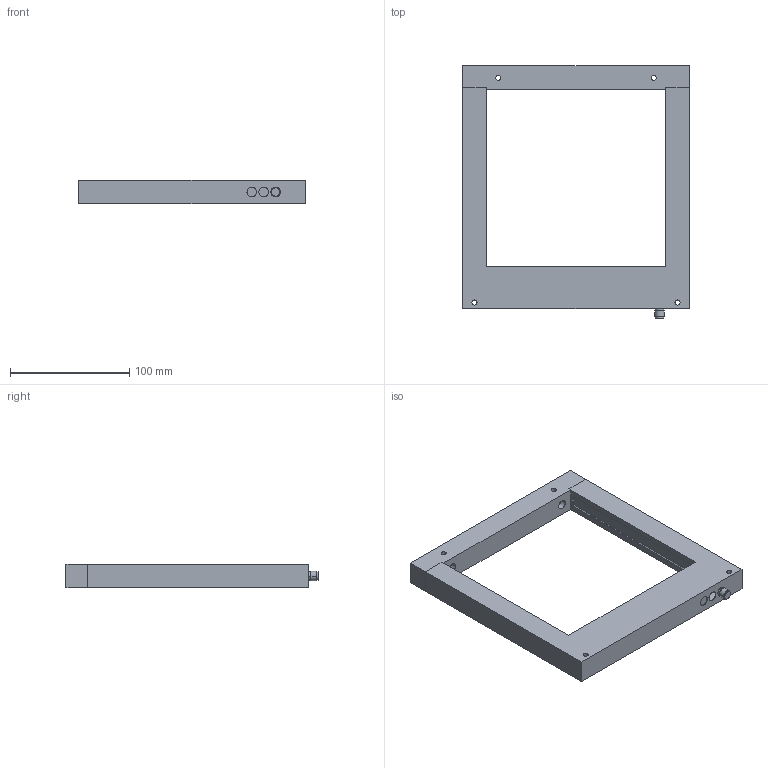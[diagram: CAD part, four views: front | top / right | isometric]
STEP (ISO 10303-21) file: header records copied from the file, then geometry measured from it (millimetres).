
FILE_DESCRIPTION(('STEP AP214'),'1');
FILE_NAME('Z:/Projekte/Webseite/Download/tmp0.step','2019-05-21T12:47:19',(' '),(' '),'Spatial InterOp 3D',' ',' ');
FILE_SCHEMA(('automotive_design'));
Length unit declared in the file: millimetre
Products named in the file (4): 19
Bounding box: 190 x 211 x 20 mm (x, y, z)
Volume: 72986.8 mm3; surface area: 63107.6 mm2
Topology: 1 solids, 44 shells, 75 faces, 306 edges, 274 vertices
Faces by surface type: plane 32, revolution 23, cylinder 20
Entity records: 3959 total; most frequent: CARTESIAN_POINT 717, DIRECTION 545, ORIENTED_EDGE 382, EDGE_CURVE 306, VERTEX_POINT 274, LINE 178, VECTOR 178, AXIS2_PLACEMENT_3D 172
